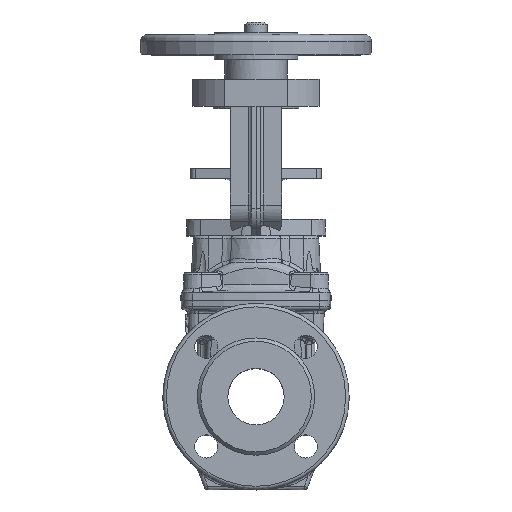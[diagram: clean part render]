
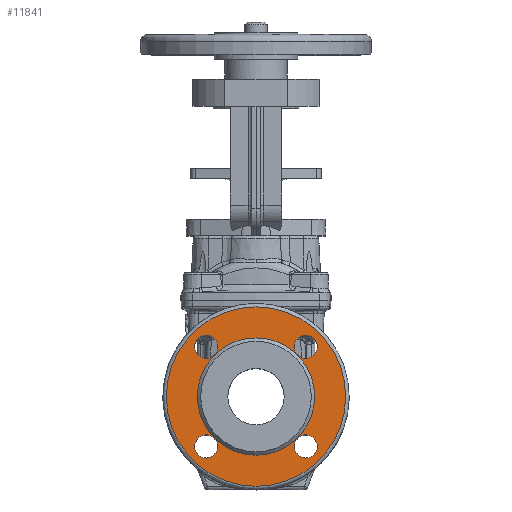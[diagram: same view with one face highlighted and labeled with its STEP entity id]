
A CAD part, top view. The second image highlights one B-rep face of the part: STEP entity #11841.
In plain terms, the highlighted planar face has unit normal (0, 0, 1).
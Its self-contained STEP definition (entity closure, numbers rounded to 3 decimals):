
#2312 = VERTEX_POINT ( 'NONE', #16212 ) ;
#2314 = VERTEX_POINT ( 'NONE', #16214 ) ;
#2315 = VERTEX_POINT ( 'NONE', #16215 ) ;
#2317 = VERTEX_POINT ( 'NONE', #16217 ) ;
#2319 = VERTEX_POINT ( 'NONE', #16219 ) ;
#2321 = VERTEX_POINT ( 'NONE', #16221 ) ;
#2835 = ORIENTED_EDGE ( 'NONE', *, *, #14497, .T. ) ;
#2865 = ORIENTED_EDGE ( 'NONE', *, *, #14537, .F. ) ;
#3846 = FACE_BOUND ( 'NONE', #16519, .T. ) ;
#3848 = FACE_BOUND ( 'NONE', #16823, .T. ) ;
#3851 = FACE_BOUND ( 'NONE', #16597, .T. ) ;
#3852 = FACE_BOUND ( 'NONE', #16593, .T. ) ;
#3853 = FACE_OUTER_BOUND ( 'NONE', #16386, .T. ) ;
#3854 = FACE_BOUND ( 'NONE', #16295, .T. ) ;
#4078 = CIRCLE ( 'NONE', #27912, 79.5 ) ;
#4082 = CIRCLE ( 'NONE', #27915, 10.25 ) ;
#4085 = CIRCLE ( 'NONE', #27919, 10.25 ) ;
#4130 = CIRCLE ( 'NONE', #27928, 52. ) ;
#4155 = CIRCLE ( 'NONE', #27932, 10.25 ) ;
#4219 = CIRCLE ( 'NONE', #27958, 10.25 ) ;
#11841 = ADVANCED_FACE ( 'NONE', ( #3846, #3848, #3851, #3852, #3853, #3854 ), #20375, .T. ) ;
#14100 = ORIENTED_EDGE ( 'NONE', *, *, #14602, .T. ) ;
#14476 = EDGE_CURVE ( 'NONE', #2312, #2312, #4078, .T. ) ;
#14485 = EDGE_CURVE ( 'NONE', #2314, #2314, #4082, .T. ) ;
#14497 = EDGE_CURVE ( 'NONE', #2315, #2315, #4085, .T. ) ;
#14523 = EDGE_CURVE ( 'NONE', #2317, #2317, #4130, .T. ) ;
#14537 = EDGE_CURVE ( 'NONE', #2319, #2319, #4155, .T. ) ;
#14602 = EDGE_CURVE ( 'NONE', #2321, #2321, #4219, .T. ) ;
#16212 = CARTESIAN_POINT ( 'NONE',  ( 0., -79.5, 86. ) ) ;
#16214 = CARTESIAN_POINT ( 'NONE',  ( -44.194, 33.944, 86. ) ) ;
#16215 = CARTESIAN_POINT ( 'NONE',  ( 44.194, 33.944, 86. ) ) ;
#16217 = CARTESIAN_POINT ( 'NONE',  ( 0., -52., 86. ) ) ;
#16219 = CARTESIAN_POINT ( 'NONE',  ( -44.194, -54.444, 86. ) ) ;
#16221 = CARTESIAN_POINT ( 'NONE',  ( 44.194, -54.444, 86. ) ) ;
#16295 = EDGE_LOOP ( 'NONE', ( #32730 ) ) ;
#16386 = EDGE_LOOP ( 'NONE', ( #28271 ) ) ;
#16519 = EDGE_LOOP ( 'NONE', ( #14100 ) ) ;
#16593 = EDGE_LOOP ( 'NONE', ( #28231 ) ) ;
#16597 = EDGE_LOOP ( 'NONE', ( #2865 ) ) ;
#16823 = EDGE_LOOP ( 'NONE', ( #2835 ) ) ;
#20375 = PLANE ( 'NONE',  #27620 ) ;
#20379 = CARTESIAN_POINT ( 'NONE',  ( 0., 52., 86. ) ) ;
#20391 = DIRECTION ( 'NONE',  ( 0., 0., 1. ) ) ;
#20393 = DIRECTION ( 'NONE',  ( 0., -1., 0. ) ) ;
#27620 = AXIS2_PLACEMENT_3D ( 'NONE', #20379, #20391, #20393 ) ;
#27912 = AXIS2_PLACEMENT_3D ( 'NONE', #32797, #32798, #32799 ) ;
#27915 = AXIS2_PLACEMENT_3D ( 'NONE', #32850, #32851, #32853 ) ;
#27919 = AXIS2_PLACEMENT_3D ( 'NONE', #32916, #32917, #32918 ) ;
#27928 = AXIS2_PLACEMENT_3D ( 'NONE', #33007, #33008, #33009 ) ;
#27932 = AXIS2_PLACEMENT_3D ( 'NONE', #33041, #33042, #33043 ) ;
#27958 = AXIS2_PLACEMENT_3D ( 'NONE', #33271, #33272, #33273 ) ;
#28231 = ORIENTED_EDGE ( 'NONE', *, *, #14485, .F. ) ;
#28271 = ORIENTED_EDGE ( 'NONE', *, *, #14476, .T. ) ;
#32730 = ORIENTED_EDGE ( 'NONE', *, *, #14523, .F. ) ;
#32797 = CARTESIAN_POINT ( 'NONE',  ( 0., 0., 86. ) ) ;
#32798 = DIRECTION ( 'NONE',  ( 0., 0., 1. ) ) ;
#32799 = DIRECTION ( 'NONE',  ( 0., -1., 0. ) ) ;
#32850 = CARTESIAN_POINT ( 'NONE',  ( -44.194, 44.194, 86. ) ) ;
#32851 = DIRECTION ( 'NONE',  ( 0., 0., 1. ) ) ;
#32853 = DIRECTION ( 'NONE',  ( 0., -1., 0. ) ) ;
#32916 = CARTESIAN_POINT ( 'NONE',  ( 44.194, 44.194, 86. ) ) ;
#32917 = DIRECTION ( 'NONE',  ( 0., 0., -1. ) ) ;
#32918 = DIRECTION ( 'NONE',  ( 0., -1., 0. ) ) ;
#33007 = CARTESIAN_POINT ( 'NONE',  ( 0., 0., 86. ) ) ;
#33008 = DIRECTION ( 'NONE',  ( 0., 0., 1. ) ) ;
#33009 = DIRECTION ( 'NONE',  ( 0., -1., 0. ) ) ;
#33041 = CARTESIAN_POINT ( 'NONE',  ( -44.194, -44.194, 86. ) ) ;
#33042 = DIRECTION ( 'NONE',  ( 0., 0., 1. ) ) ;
#33043 = DIRECTION ( 'NONE',  ( 0., -1., 0. ) ) ;
#33271 = CARTESIAN_POINT ( 'NONE',  ( 44.194, -44.194, 86. ) ) ;
#33272 = DIRECTION ( 'NONE',  ( 0., 0., -1. ) ) ;
#33273 = DIRECTION ( 'NONE',  ( 0., -1., 0. ) ) ;
